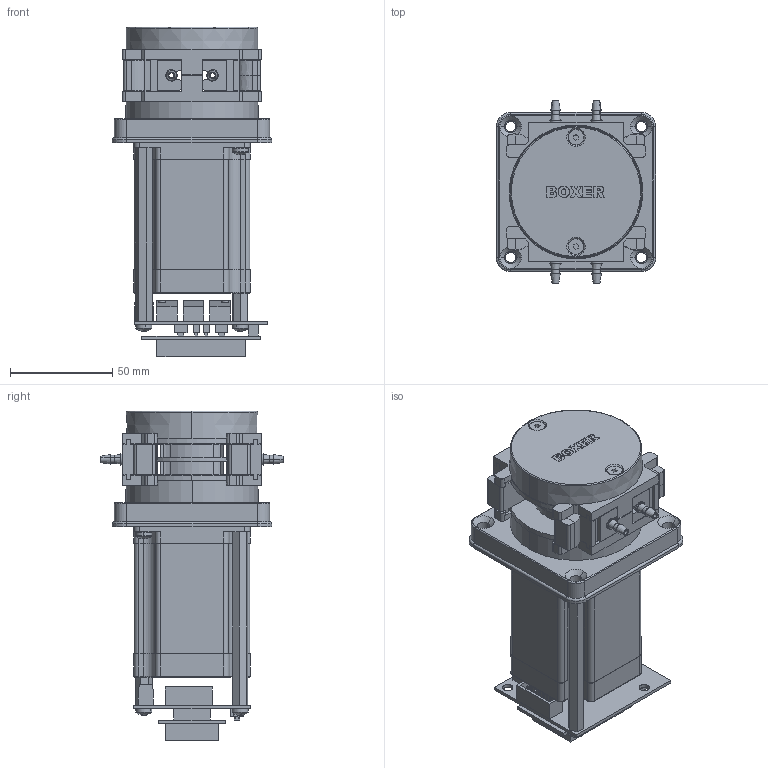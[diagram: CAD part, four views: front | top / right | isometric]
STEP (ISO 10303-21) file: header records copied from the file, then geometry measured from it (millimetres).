
FILE_DESCRIPTION (( 'STEP AP203' ), '1' );
FILE_NAME ('6141.105.STEP', '2019-02-25T14:30:04', ( '' ), ( '' ), 'SwSTEP 2.0', 'SolidWorks 2015', '' );
FILE_SCHEMA (( 'CONFIG_CONTROL_DESIGN' ));
Length unit declared in the file: millimetre
Products named in the file (1): 6141.105
Bounding box: 78 x 89.5 x 161.35 mm (x, y, z)
Surface area: 81970.8 mm2 (no closed solid volume)
Topology: 0 solids, 50 shells, 813 faces, 2765 edges, 1957 vertices
Faces by surface type: plane 494, cylinder 190, cone 58, torus 42, bspline 21, sphere 8
Entity records: 31191 total; most frequent: CARTESIAN_POINT 7130, DIRECTION 5079, ORIENTED_EDGE 4468, EDGE_CURVE 2765, VERTEX_POINT 1957, VECTOR 1827, LINE 1827, AXIS2_PLACEMENT_3D 1626
